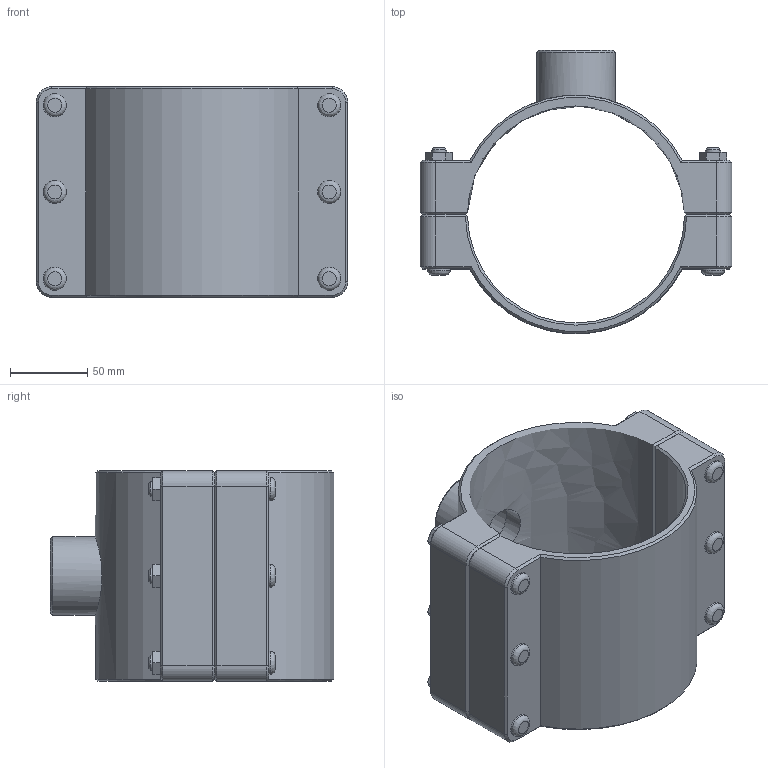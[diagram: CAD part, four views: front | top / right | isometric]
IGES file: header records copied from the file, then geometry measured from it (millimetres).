
Global section: file name: 160760140013_160860140013.ipt; native system: Autodesk Inventor 2015; preprocessor: unknown; author: KIM; date: 20170618.093558; units: millimetre
Bounding box: 201 x 182.72 x 136 mm (x, y, z)
Volume: 961357.1 mm3; surface area: 176274.1 mm2
Topology: 1 solids, 1 shells, 169 faces, 394 edges, 249 vertices
Faces by surface type: plane 100, cylinder 29, cone 27, revolution 13
Full cylindrical faces by diameter (mm): 10 x6, 15 x12, 50.638 x1
